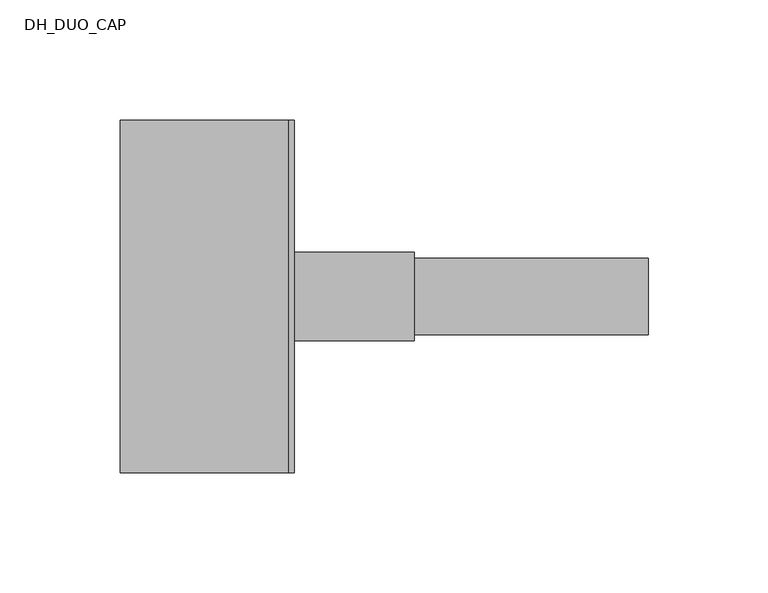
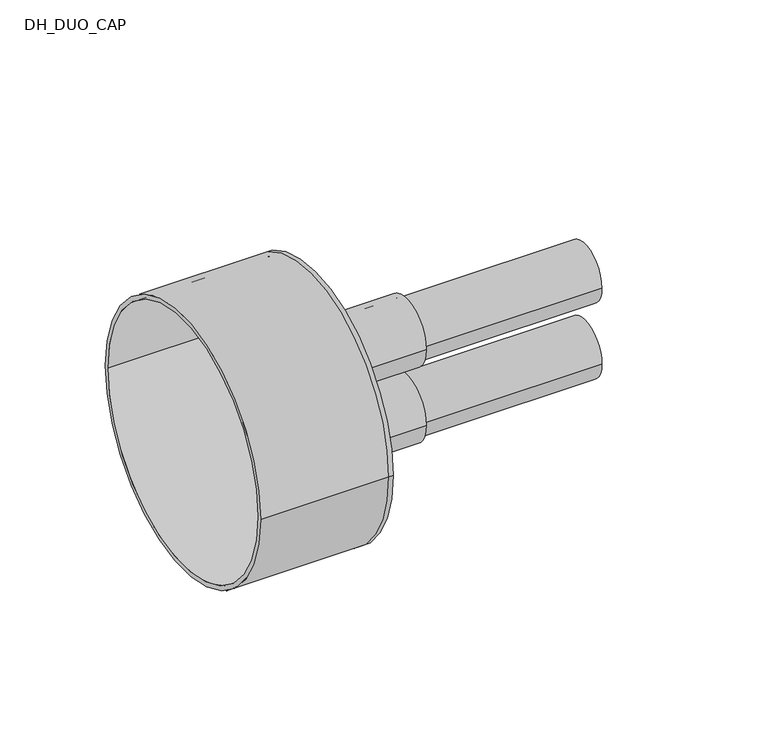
"""IFC4 building model written with IfcOpenShell, lengths in millimetres: pipe fitting geometry, DH_DUO_CAP : RAUTHERMEX DUO ++ 7.4 Heating - Rubber Cap."""

from ifc_helpers import new_model, si_unit, point, frame, frame_2d, origin, place, context, project, spatial, polyline, circle_curve, trimmed, segment, composite_curve, outline, extrude, source, transform, mapped, element, save
from ifc_brep_helpers import plane_surface, cylinder_surface, revolved_surface, advanced_brep


def dh_duo_cap_912dcadd(model_context):
    return source(origin(), model_context, "Body", "SolidModel", [
        extrude(outline(composite_curve([segment(trimmed(circle_curve(frame_2d((0.0, -22.0)), 16.0), [point((-16.0, -22.0))], [point((16.0, -22.0))], False, "CARTESIAN"), True, "CONTINUOUS"), segment(trimmed(circle_curve(frame_2d((0.0, -22.0)), 16.0), [point((16.0, -22.0))], [point((-16.0, -22.0))], False, "CARTESIAN"), True, "CONTINUOUS")], self_intersect=False), holes=[composite_curve([segment(trimmed(circle_curve(frame_2d((0.0, -22.0)), 11.6), [point((-11.6, -22.0))], [point((11.6, -22.0))], True, "CARTESIAN"), True, "CONTINUOUS"), segment(trimmed(circle_curve(frame_2d((0.0, -22.0)), 11.6), [point((11.6, -22.0))], [point((-11.6, -22.0))], True, "CARTESIAN"), True, "CONTINUOUS")], self_intersect=False)]), frame((0.0, 0.0, 0.0), z_axis=(1.0, 0.0, 0.0), x_axis=(0.0, 1.0, 0.0)), (0.0, 0.0, 1.0), 150.0),
        extrude(outline(composite_curve([segment(trimmed(circle_curve(frame_2d((0.0, 22.0)), 16.0), [point((-16.0, 22.0))], [point((16.0, 22.0))], False, "CARTESIAN"), True, "CONTINUOUS"), segment(trimmed(circle_curve(frame_2d((0.0, 22.0)), 16.0), [point((16.0, 22.0))], [point((-16.0, 22.0))], False, "CARTESIAN"), True, "CONTINUOUS")], self_intersect=False), holes=[composite_curve([segment(trimmed(circle_curve(frame_2d((0.0, 22.0)), 11.6), [point((-11.6, 22.0))], [point((11.6, 22.0))], True, "CARTESIAN"), True, "CONTINUOUS"), segment(trimmed(circle_curve(frame_2d((0.0, 22.0)), 11.6), [point((11.6, 22.0))], [point((-11.6, 22.0))], True, "CARTESIAN"), True, "CONTINUOUS")], self_intersect=False)]), frame((0.0, 0.0, 0.0), z_axis=(1.0, 0.0, 0.0), x_axis=(0.0, 1.0, 0.0)), (0.0, 0.0, 1.0), 150.0),
        advanced_brep(
        [(-70.0, -73.5, 0.0), (-70.0, 73.5, 0.0), (-70.0, -71.0, 0.0), (-70.0, 71.0, 0.0), (0.0, -71.0, 0.0), (0.0, 71.0, 0.0), (0.0, -73.5, 0.0), (0.0, 73.5, 0.0), (0.0, 16.0, 22.0), (0.0, -16.0, 22.0), (0.0, 16.0, -22.0), (0.0, -16.0, -22.0), (2.5, -73.5, 0.0), (2.5, 73.5, 0.0), (2.5, -16.0, 22.0), (2.5, 16.0, 22.0), (2.5, -16.0, -22.0), (2.5, 16.0, -22.0)],
        [
            (0, 1, circle_curve(frame((-70.0, 0.0, 0.0), z_axis=(-1.0, 0.0, 0.0), x_axis=(0.0, 1.0, 0.0)), 73.5)),
            (1, 0, circle_curve(frame((-70.0, 0.0, 0.0), z_axis=(-1.0, 0.0, 0.0), x_axis=(0.0, 1.0, 0.0)), 73.5)),
            (2, 3, circle_curve(frame((-70.0, 0.0, 0.0), z_axis=(1.0, 0.0, 0.0), x_axis=(0.0, 1.0, 0.0)), 71.0)),
            (3, 2, circle_curve(frame((-70.0, 0.0, 0.0), z_axis=(1.0, 0.0, 0.0), x_axis=(0.0, 1.0, 0.0)), 71.0)),
            (2, 4),
            (4, 5, circle_curve(frame((0.0, 0.0, 0.0), z_axis=(1.0, 0.0, 0.0), x_axis=(0.0, 1.0, 0.0)), 71.0)),
            (5, 3),
            (5, 4, circle_curve(frame((0.0, 0.0, 0.0), z_axis=(1.0, 0.0, 0.0), x_axis=(0.0, 1.0, 0.0)), 71.0)),
            (0, 6),
            (6, 7, circle_curve(frame((0.0, 0.0, 0.0), z_axis=(-1.0, 0.0, 0.0), x_axis=(0.0, 1.0, 0.0)), 73.5)),
            (7, 1),
            (7, 6, circle_curve(frame((0.0, 0.0, 0.0), z_axis=(-1.0, 0.0, 0.0), x_axis=(0.0, 1.0, 0.0)), 73.5)),
            (8, 9, circle_curve(frame((0.0, 0.0, 22.0), z_axis=(1.0, 0.0, 0.0), x_axis=(0.0, 1.0, 0.0)), 16.0)),
            (9, 8, circle_curve(frame((0.0, 0.0, 22.0), z_axis=(1.0, 0.0, 0.0), x_axis=(0.0, 1.0, 0.0)), 16.0)),
            (10, 11, circle_curve(frame((0.0, 0.0, -22.0), z_axis=(1.0, 0.0, 0.0), x_axis=(0.0, 1.0, 0.0)), 16.0)),
            (11, 10, circle_curve(frame((0.0, 0.0, -22.0), z_axis=(1.0, 0.0, 0.0), x_axis=(0.0, 1.0, 0.0)), 16.0)),
            (12, 13, circle_curve(frame((2.5, 0.0, 0.0), z_axis=(1.0, 0.0, 0.0), x_axis=(0.0, 1.0, 0.0)), 73.5)),
            (13, 12, circle_curve(frame((2.5, 0.0, 0.0), z_axis=(1.0, 0.0, 0.0), x_axis=(0.0, 1.0, 0.0)), 73.5)),
            (14, 15, circle_curve(frame((2.5, 0.0, 22.0), z_axis=(-1.0, 0.0, 0.0), x_axis=(0.0, 1.0, 0.0)), 16.0)),
            (15, 14, circle_curve(frame((2.5, 0.0, 22.0), z_axis=(-1.0, 0.0, 0.0), x_axis=(0.0, 1.0, 0.0)), 16.0)),
            (16, 17, circle_curve(frame((2.5, 0.0, -22.0), z_axis=(-1.0, 0.0, 0.0), x_axis=(0.0, 1.0, 0.0)), 16.0)),
            (17, 16, circle_curve(frame((2.5, 0.0, -22.0), z_axis=(-1.0, 0.0, 0.0), x_axis=(0.0, 1.0, 0.0)), 16.0)),
            (13, 7),
            (6, 12),
            (8, 15),
            (14, 9),
            (10, 17),
            (16, 11),
        ],
        [
            plane_surface(frame((-70.0, 0.0, 0.0), z_axis=(-1.0, 0.0, 0.0), x_axis=(0.0, 0.0, 1.0))),
            revolved_surface(polyline([(0.0, 71.0, 0.0), (-70.0, 71.0, 0.0)]), (-70.0, 0.0, 0.0), (1.0, 0.0, 0.0)),
            cylinder_surface(frame((-70.0, 0.0, 0.0), z_axis=(-1.0, 0.0, 0.0), x_axis=(0.0, 1.0, 0.0)), 73.5),
            plane_surface(frame((0.0, 0.0, 0.0), z_axis=(-1.0, 0.0, 0.0), x_axis=(0.0, 0.0, 1.0))),
            plane_surface(frame((2.5, 0.0, 0.0), z_axis=(1.0, 0.0, 0.0), x_axis=(0.0, 0.0, 1.0))),
            cylinder_surface(frame((0.0, 0.0, 0.0), z_axis=(-1.0, 0.0, 0.0), x_axis=(0.0, 1.0, 0.0)), 73.5),
            revolved_surface(polyline([(0.0, 16.0, 22.0), (2.5, 16.0, 22.0)]), (0.0, 0.0, 22.0), (-1.0, 0.0, 0.0)),
            revolved_surface(polyline([(0.0, 16.0, -22.0), (2.5, 16.0, -22.0)]), (0.0, 0.0, -22.0), (-1.0, 0.0, 0.0)),
        ],
        [
            (0, [[1, 2], [3, 4]]),
            (1, [[-3, 5, 6, 7]]),
            (1, [[-4, -7, 8, -5]]),
            (2, [[-1, 9, 10, 11]]),
            (2, [[-2, -11, 12, -9]]),
            (3, [[-6, -8], [13, 14], [15, 16]]),
            (4, [[17, 18], [19, 20], [21, 22]]),
            (5, [[-18, 23, -10, 24]]),
            (5, [[-17, -24, -12, -23]]),
            (6, [[25, -19, 26, -13]]),
            (6, [[-25, -14, -26, -20]]),
            (7, [[27, -21, 28, -15]]),
            (7, [[-27, -16, -28, -22]]),
        ],
    ),
        extrude(outline(composite_curve([segment(trimmed(circle_curve(frame_2d((0.0, -22.0)), 18.5), [point((-18.5, -22.0))], [point((18.5, -22.0))], False, "CARTESIAN"), True, "CONTINUOUS"), segment(trimmed(circle_curve(frame_2d((0.0, -22.0)), 18.5), [point((18.5, -22.0))], [point((-18.5, -22.0))], False, "CARTESIAN"), True, "CONTINUOUS")], self_intersect=False), holes=[composite_curve([segment(trimmed(circle_curve(frame_2d((0.0, -22.0)), 16.0), [point((-16.0, -22.0))], [point((16.0, -22.0))], True, "CARTESIAN"), True, "CONTINUOUS"), segment(trimmed(circle_curve(frame_2d((0.0, -22.0)), 16.0), [point((16.0, -22.0))], [point((-16.0, -22.0))], True, "CARTESIAN"), True, "CONTINUOUS")], self_intersect=False)]), frame((2.5, 0.0, 0.0), z_axis=(1.0, 0.0, 0.0), x_axis=(0.0, 1.0, 0.0)), (0.0, 0.0, 1.0), 50.0),
        extrude(outline(composite_curve([segment(trimmed(circle_curve(frame_2d((0.0, 22.0)), 18.5), [point((-18.5, 22.0))], [point((18.5, 22.0))], False, "CARTESIAN"), True, "CONTINUOUS"), segment(trimmed(circle_curve(frame_2d((0.0, 22.0)), 18.5), [point((18.5, 22.0))], [point((-18.5, 22.0))], False, "CARTESIAN"), True, "CONTINUOUS")], self_intersect=False), holes=[composite_curve([segment(trimmed(circle_curve(frame_2d((0.0, 22.0)), 16.0), [point((-16.0, 22.0))], [point((16.0, 22.0))], True, "CARTESIAN"), True, "CONTINUOUS"), segment(trimmed(circle_curve(frame_2d((0.0, 22.0)), 16.0), [point((16.0, 22.0))], [point((-16.0, 22.0))], True, "CARTESIAN"), True, "CONTINUOUS")], self_intersect=False)]), frame((2.5, 0.0, 0.0), z_axis=(1.0, 0.0, 0.0), x_axis=(0.0, 1.0, 0.0)), (0.0, 0.0, 1.0), 50.0),
    ])


if __name__ == "__main__":
    model = new_model("IFC4")
    model_context = context("Model", 3, world=origin())
    ifc_project = project(units=[si_unit("LENGTHUNIT", "METRE", prefix="MILLI")], contexts=[model_context])
    site = spatial("IfcSite", under=ifc_project)
    building = spatial("IfcBuilding", under=site)
    placement = place(None, origin())
    dh_duo_cap_shape = dh_duo_cap_912dcadd(model_context)
    element("IfcPipeFitting", 1, ObjectType="DH_DUO_CAP : RAUTHERMEX DUO ++ 7.4 Heating - Rubber Cap", at=placement, inside=building, context=model_context, shape_type="MappedRepresentation", body=[
        mapped(dh_duo_cap_shape, transform((0.0, 0.0, 0.0), x_axis=(1.0, 0.0, 0.0), y_axis=(0.0, 1.0, 0.0), z_axis=(0.0, 0.0, 1.0))),
    ])
    save(model, "model.ifc")
